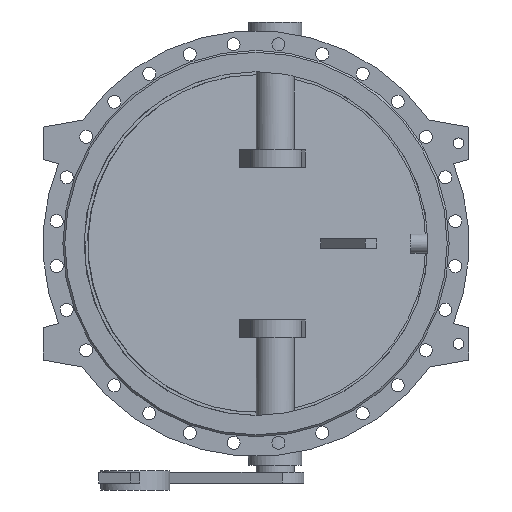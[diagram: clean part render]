
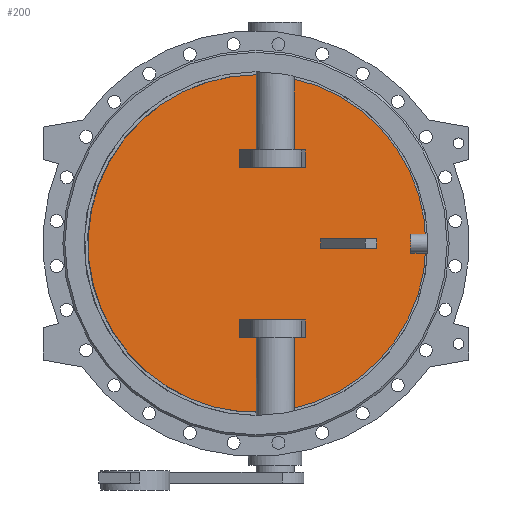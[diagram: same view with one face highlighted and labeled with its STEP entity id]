
A CAD part, front view. The second image highlights one B-rep face of the part: STEP entity #200.
In plain terms, the highlighted planar face has unit normal (0.131, -0.991, 0).
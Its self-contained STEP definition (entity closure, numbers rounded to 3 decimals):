
#200=ADVANCED_FACE('',(#1583,#1585,#1587,#1589),#1591,.T.);
#1583=FACE_BOUND('',#1584,.T.);
#1584=EDGE_LOOP('',(#3092));
#1585=FACE_BOUND('',#1586,.T.);
#1586=EDGE_LOOP('',(#3093,#3094,#3095,#3096));
#1587=FACE_BOUND('',#1588,.T.);
#1588=EDGE_LOOP('',(#3097,#3098,#3099,#3100));
#1589=FACE_BOUND('',#1590,.T.);
#1590=EDGE_LOOP('',(#3101,#3102,#3103,#3104));
#1591=PLANE('',#1592);
#1592=AXIS2_PLACEMENT_3D('',#1593,#1594,#1595);
#1593=CARTESIAN_POINT('',(-1.272,9.66,0.));
#1594=DIRECTION('',(0.131,-0.991,0.));
#1595=DIRECTION('',(0.,0.,-1.));
#3092=ORIENTED_EDGE('',*,*,#3708,.T.);
#3093=ORIENTED_EDGE('',*,*,#3712,.F.);
#3094=ORIENTED_EDGE('',*,*,#3713,.F.);
#3095=ORIENTED_EDGE('',*,*,#3714,.F.);
#3096=ORIENTED_EDGE('',*,*,#3715,.F.);
#3097=ORIENTED_EDGE('',*,*,#3716,.F.);
#3098=ORIENTED_EDGE('',*,*,#3717,.F.);
#3099=ORIENTED_EDGE('',*,*,#3718,.F.);
#3100=ORIENTED_EDGE('',*,*,#3719,.F.);
#3101=ORIENTED_EDGE('',*,*,#3720,.F.);
#3102=ORIENTED_EDGE('',*,*,#3721,.F.);
#3103=ORIENTED_EDGE('',*,*,#3722,.F.);
#3104=ORIENTED_EDGE('',*,*,#3723,.F.);
#3708=EDGE_CURVE('',#4051,#4051,#4052,.T.);
#3712=EDGE_CURVE('',#4059,#4060,#4061,.T.);
#3713=EDGE_CURVE('',#4062,#4059,#4063,.F.);
#3714=EDGE_CURVE('',#4064,#4062,#4065,.T.);
#3715=EDGE_CURVE('',#4060,#4064,#4066,.T.);
#3716=EDGE_CURVE('',#4067,#4068,#4069,.F.);
#3717=EDGE_CURVE('',#4070,#4067,#4071,.T.);
#3718=EDGE_CURVE('',#4072,#4070,#4073,.T.);
#3719=EDGE_CURVE('',#4068,#4072,#4074,.T.);
#3720=EDGE_CURVE('',#4075,#4076,#4077,.T.);
#3721=EDGE_CURVE('',#4078,#4075,#4079,.F.);
#3722=EDGE_CURVE('',#4080,#4078,#4081,.F.);
#3723=EDGE_CURVE('',#4076,#4080,#4082,.F.);
#4051=VERTEX_POINT('',#5230);
#4052=B_SPLINE_CURVE_WITH_KNOTS('',3,
(#5231,#5232,#5233,#5234,#5235,#5236,#5237,#5238,#5239,#5240,#5241,#5242,#5243,#5244,
#5245,#5246,#5247,#5248,#5249,#5250,#5251,#5252,#5253,#5254,#5255,#5256,#5257,#5258,
#5259,#5260,#5261,#5262,#5263,#5264,#5265,#5266,#5267,#5268,#5269,#5270,#5271,#5272,
#5273,#5274,#5275,#5276,#5277,#5278,#5279,#5280,#5281),
.UNSPECIFIED.,.T.,.F.,
(4,1,1,1,1,1,1,1,1,1,1,1,1,1,1,1,1,1,1,1,1,1,1,1,1,1,1,1,1,1,1,1,1,1,1,1,1,1,1,1,
1,1,1,1,1,1,1,1,4),
(0.,0.021,0.042,0.063,0.084,
0.105,0.126,0.147,0.168,0.189,
0.211,0.232,0.253,0.274,0.295,
0.316,0.337,0.358,0.379,0.4,
0.421,0.442,0.463,0.484,0.505,
0.527,0.548,0.569,0.59,0.611,
0.632,0.653,0.674,0.695,0.716,
0.737,0.758,0.779,0.8,0.821,
0.842,0.864,0.885,0.906,0.927,
0.948,0.969,0.986,1.),
.UNSPECIFIED.);
#4059=VERTEX_POINT('',#5344);
#4060=VERTEX_POINT('',#5345);
#4061=LINE('',#5346,#5347);
#4062=VERTEX_POINT('',#5349);
#4063=LINE('',#5350,#5351);
#4064=VERTEX_POINT('',#5353);
#4065=LINE('',#5354,#5355);
#4066=LINE('',#5357,#5358);
#4067=VERTEX_POINT('',#5360);
#4068=VERTEX_POINT('',#5361);
#4069=LINE('',#5362,#5363);
#4070=VERTEX_POINT('',#5365);
#4071=LINE('',#5366,#5367);
#4072=VERTEX_POINT('',#5369);
#4073=LINE('',#5370,#5371);
#4074=LINE('',#5373,#5374);
#4075=VERTEX_POINT('',#5376);
#4076=VERTEX_POINT('',#5377);
#4077=LINE('',#5378,#5379);
#4078=VERTEX_POINT('',#5381);
#4079=LINE('',#5382,#5383);
#4080=VERTEX_POINT('',#5385);
#4081=LINE('',#5386,#5387);
#4082=LINE('',#5389,#5390);
#5230=CARTESIAN_POINT('',(2.611,10.171,442.));
#5231=CARTESIAN_POINT('',(2.611,10.171,442.));
#5232=CARTESIAN_POINT('',(-16.814,7.614,442.));
#5233=CARTESIAN_POINT('',(-55.709,2.493,439.433));
#5234=CARTESIAN_POINT('',(-113.11,-5.064,427.925));
#5235=CARTESIAN_POINT('',(-168.567,-12.365,408.921));
#5236=CARTESIAN_POINT('',(-221.061,-19.276,382.746));
#5237=CARTESIAN_POINT('',(-269.627,-25.67,349.883));
#5238=CARTESIAN_POINT('',(-313.427,-31.436,310.9));
#5239=CARTESIAN_POINT('',(-351.695,-36.474,266.485));
#5240=CARTESIAN_POINT('',(-383.763,-40.696,217.416));
#5241=CARTESIAN_POINT('',(-409.073,-44.028,164.549));
#5242=CARTESIAN_POINT('',(-427.186,-46.413,108.81));
#5243=CARTESIAN_POINT('',(-437.786,-47.808,51.171));
#5244=CARTESIAN_POINT('',(-440.688,-48.19,-7.361));
#5245=CARTESIAN_POINT('',(-435.843,-47.552,-65.765));
#5246=CARTESIAN_POINT('',(-423.335,-45.906,-123.022));
#5247=CARTESIAN_POINT('',(-403.379,-43.278,-178.132));
#5248=CARTESIAN_POINT('',(-376.324,-39.717,-230.132));
#5249=CARTESIAN_POINT('',(-342.639,-35.282,-278.114));
#5250=CARTESIAN_POINT('',(-302.912,-30.052,-321.237));
#5251=CARTESIAN_POINT('',(-257.834,-24.117,-358.745));
#5252=CARTESIAN_POINT('',(-208.194,-17.582,-389.98));
#5253=CARTESIAN_POINT('',(-154.858,-10.56,-414.392));
#5254=CARTESIAN_POINT('',(-98.761,-3.175,-431.551));
#5255=CARTESIAN_POINT('',(-40.887,4.445,-441.155));
#5256=CARTESIAN_POINT('',(17.75,12.164,-443.035));
#5257=CARTESIAN_POINT('',(76.121,19.849,-437.158));
#5258=CARTESIAN_POINT('',(133.201,27.364,-423.628));
#5259=CARTESIAN_POINT('',(187.99,34.577,-402.683));
#5260=CARTESIAN_POINT('',(239.529,41.362,-374.694));
#5261=CARTESIAN_POINT('',(286.917,47.601,-340.151));
#5262=CARTESIAN_POINT('',(329.326,53.184,-299.663));
#5263=CARTESIAN_POINT('',(366.016,58.014,-253.939));
#5264=CARTESIAN_POINT('',(396.348,62.008,-203.78));
#5265=CARTESIAN_POINT('',(419.795,65.094,-150.062));
#5266=CARTESIAN_POINT('',(435.948,67.221,-93.725));
#5267=CARTESIAN_POINT('',(444.526,68.35,-35.752));
#5268=CARTESIAN_POINT('',(445.381,68.463,22.846));
#5269=CARTESIAN_POINT('',(438.498,67.557,81.046));
#5270=CARTESIAN_POINT('',(423.995,65.647,137.831));
#5271=CARTESIAN_POINT('',(402.125,62.768,192.211));
#5272=CARTESIAN_POINT('',(373.267,58.969,243.236));
#5273=CARTESIAN_POINT('',(337.925,54.316,290.012));
#5274=CARTESIAN_POINT('',(296.711,48.89,331.723));
#5275=CARTESIAN_POINT('',(250.359,42.788,367.624));
#5276=CARTESIAN_POINT('',(199.733,36.123,397.062));
#5277=CARTESIAN_POINT('',(145.566,28.992,419.62));
#5278=CARTESIAN_POINT('',(92.142,21.958,433.952));
#5279=CARTESIAN_POINT('',(44.11,15.635,440.759));
#5280=CARTESIAN_POINT('',(15.294,11.841,442.));
#5281=CARTESIAN_POINT('',(2.611,10.171,442.));
#5344=CARTESIAN_POINT('',(293.931,48.524,-12.5));
#5345=CARTESIAN_POINT('',(293.931,48.524,12.5));
#5346=CARTESIAN_POINT('',(293.931,48.524,-12.5));
#5347=VECTOR('',#5348,1.);
#5348=DIRECTION('',(0.,0.,1.));
#5349=CARTESIAN_POINT('',(170.,32.208,-12.5));
#5350=CARTESIAN_POINT('',(293.931,48.524,-12.5));
#5351=VECTOR('',#5352,1.);
#5352=DIRECTION('',(-0.991,-0.131,0.));
#5353=CARTESIAN_POINT('',(170.,32.208,12.5));
#5354=CARTESIAN_POINT('',(170.,32.208,12.5));
#5355=VECTOR('',#5356,1.);
#5356=DIRECTION('',(0.,0.,-1.));
#5357=CARTESIAN_POINT('',(293.931,48.524,12.5));
#5358=VECTOR('',#5359,1.);
#5359=DIRECTION('',(-0.991,-0.131,0.));
#5360=CARTESIAN_POINT('',(-44.007,4.034,-245.));
#5361=CARTESIAN_POINT('',(129.407,26.864,-245.));
#5362=CARTESIAN_POINT('',(129.407,26.864,-245.));
#5363=VECTOR('',#5364,1.);
#5364=DIRECTION('',(-0.991,-0.131,0.));
#5365=CARTESIAN_POINT('',(-44.007,4.034,-200.));
#5366=CARTESIAN_POINT('',(-44.007,4.034,-200.));
#5367=VECTOR('',#5368,1.);
#5368=DIRECTION('',(0.,0.,-1.));
#5369=CARTESIAN_POINT('',(129.407,26.864,-200.));
#5370=CARTESIAN_POINT('',(129.407,26.864,-200.));
#5371=VECTOR('',#5372,1.);
#5372=DIRECTION('',(-0.991,-0.131,0.));
#5373=CARTESIAN_POINT('',(129.407,26.864,-245.));
#5374=VECTOR('',#5375,1.);
#5375=DIRECTION('',(0.,0.,1.));
#5376=CARTESIAN_POINT('',(129.407,26.864,245.));
#5377=CARTESIAN_POINT('',(-44.007,4.034,245.));
#5378=CARTESIAN_POINT('',(129.407,26.864,245.));
#5379=VECTOR('',#5380,1.);
#5380=DIRECTION('',(-0.991,-0.131,0.));
#5381=CARTESIAN_POINT('',(129.407,26.864,200.));
#5382=CARTESIAN_POINT('',(129.407,26.864,245.));
#5383=VECTOR('',#5384,1.);
#5384=DIRECTION('',(0.,0.,-1.));
#5385=CARTESIAN_POINT('',(-44.007,4.034,200.));
#5386=CARTESIAN_POINT('',(129.407,26.864,200.));
#5387=VECTOR('',#5388,1.);
#5388=DIRECTION('',(-0.991,-0.131,0.));
#5389=CARTESIAN_POINT('',(-44.007,4.034,200.));
#5390=VECTOR('',#5391,1.);
#5391=DIRECTION('',(0.,0.,1.));
